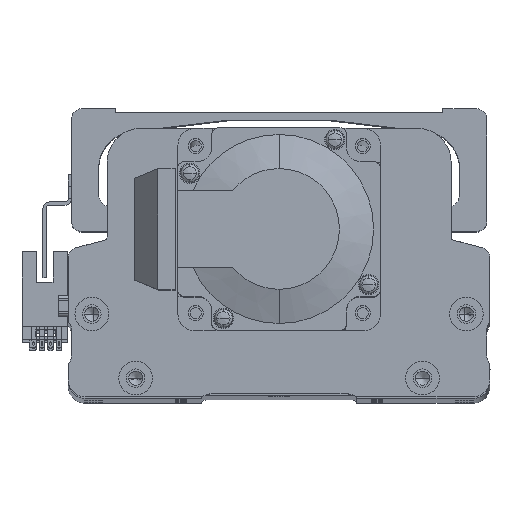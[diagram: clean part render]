
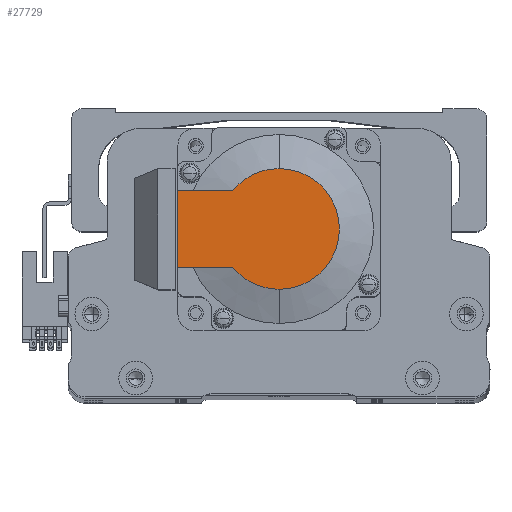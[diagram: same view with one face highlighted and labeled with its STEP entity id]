
A CAD part, top view. The second image highlights one B-rep face of the part: STEP entity #27729.
In plain terms, the highlighted planar face has unit normal (0, 0, 1) as drawn and (-1, 0, 0) by its records, which use the part's own axes.
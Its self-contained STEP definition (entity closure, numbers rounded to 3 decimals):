
#912 = EDGE_CURVE ( 'NONE', #35731, #5196, #12882, .T. ) ;
#1226 = EDGE_CURVE ( 'NONE', #3002, #5196, #44260, .T. ) ;
#2044 = LINE ( 'NONE', #11941, #41843 ) ;
#2103 = EDGE_CURVE ( 'NONE', #10408, #3002, #3153, .T. ) ;
#2676 = DIRECTION ( 'NONE',  ( 0., 0., -1. ) ) ;
#3002 = VERTEX_POINT ( 'NONE', #18018 ) ;
#3153 = CIRCLE ( 'NONE', #4455, 17.881 ) ;
#4455 = AXIS2_PLACEMENT_3D ( 'NONE', #51903, #27250, #2676 ) ;
#5196 = VERTEX_POINT ( 'NONE', #6485 ) ;
#6151 = DIRECTION ( 'NONE',  ( -1., 0., 0. ) ) ;
#6296 = DIRECTION ( 'NONE',  ( -1., 0., 0. ) ) ;
#6485 = CARTESIAN_POINT ( 'NONE',  ( -118.5, 13.735, 11.45 ) ) ;
#7792 = DIRECTION ( 'NONE',  ( 0., 0., 1. ) ) ;
#9345 = EDGE_CURVE ( 'NONE', #48548, #35882, #45263, .T. ) ;
#10408 = VERTEX_POINT ( 'NONE', #36510 ) ;
#10432 = EDGE_CURVE ( 'NONE', #48548, #35731, #2044, .T. ) ;
#11866 = CIRCLE ( 'NONE', #42321, 17.881 ) ;
#11941 = CARTESIAN_POINT ( 'NONE',  ( -118.5, 30., 25. ) ) ;
#12882 = LINE ( 'NONE', #20507, #45626 ) ;
#18018 = CARTESIAN_POINT ( 'NONE',  ( -118.5, 0., 17.881 ) ) ;
#18524 = PLANE ( 'NONE',  #31766 ) ;
#18725 = DIRECTION ( 'NONE',  ( -1., 0., 0. ) ) ;
#19515 = DIRECTION ( 'NONE',  ( 0., -1., 0. ) ) ;
#19981 = ORIENTED_EDGE ( 'NONE', *, *, #33152, .T. ) ;
#20507 = CARTESIAN_POINT ( 'NONE',  ( -118.5, 0., 11.45 ) ) ;
#20555 = AXIS2_PLACEMENT_3D ( 'NONE', #30882, #6296, #35039 ) ;
#24044 = ORIENTED_EDGE ( 'NONE', *, *, #9345, .T. ) ;
#25751 = ORIENTED_EDGE ( 'NONE', *, *, #912, .F. ) ;
#26098 = EDGE_LOOP ( 'NONE', ( #24044, #19981, #35373, #32682, #25751, #32433 ) ) ;
#27250 = DIRECTION ( 'NONE',  ( -1., 0., 0. ) ) ;
#27729 = ADVANCED_FACE ( 'NONE', ( #28301 ), #18524, .T. ) ;
#28015 = CARTESIAN_POINT ( 'NONE',  ( -118.5, 13.735, -11.45 ) ) ;
#28301 = FACE_OUTER_BOUND ( 'NONE', #26098, .T. ) ;
#30732 = CARTESIAN_POINT ( 'NONE',  ( -118.5, 0., 0. ) ) ;
#30882 = CARTESIAN_POINT ( 'NONE',  ( -118.5, 0., 0. ) ) ;
#31766 = AXIS2_PLACEMENT_3D ( 'NONE', #43318, #18725, #47485 ) ;
#32433 = ORIENTED_EDGE ( 'NONE', *, *, #10432, .F. ) ;
#32682 = ORIENTED_EDGE ( 'NONE', *, *, #1226, .T. ) ;
#33152 = EDGE_CURVE ( 'NONE', #35882, #10408, #11866, .T. ) ;
#34893 = DIRECTION ( 'NONE',  ( 0., 0., -1. ) ) ;
#35039 = DIRECTION ( 'NONE',  ( 0., 0., -1. ) ) ;
#35222 = CARTESIAN_POINT ( 'NONE',  ( -118.5, 30., -11.45 ) ) ;
#35373 = ORIENTED_EDGE ( 'NONE', *, *, #2103, .T. ) ;
#35731 = VERTEX_POINT ( 'NONE', #51643 ) ;
#35882 = VERTEX_POINT ( 'NONE', #28015 ) ;
#36510 = CARTESIAN_POINT ( 'NONE',  ( -118.5, 0., -17.881 ) ) ;
#39969 = CARTESIAN_POINT ( 'NONE',  ( -118.5, -8.941, -11.45 ) ) ;
#40970 = DIRECTION ( 'NONE',  ( 0., -1., 0. ) ) ;
#41843 = VECTOR ( 'NONE', #7792, 1000. ) ;
#42321 = AXIS2_PLACEMENT_3D ( 'NONE', #30732, #6151, #34893 ) ;
#43318 = CARTESIAN_POINT ( 'NONE',  ( -118.5, -8.941, 0. ) ) ;
#43949 = VECTOR ( 'NONE', #19515, 1000. ) ;
#44260 = CIRCLE ( 'NONE', #20555, 17.881 ) ;
#45263 = LINE ( 'NONE', #39969, #43949 ) ;
#45626 = VECTOR ( 'NONE', #40970, 1000. ) ;
#47485 = DIRECTION ( 'NONE',  ( 0., 0., 1. ) ) ;
#48548 = VERTEX_POINT ( 'NONE', #35222 ) ;
#51643 = CARTESIAN_POINT ( 'NONE',  ( -118.5, 30., 11.45 ) ) ;
#51903 = CARTESIAN_POINT ( 'NONE',  ( -118.5, 0., 0. ) ) ;
